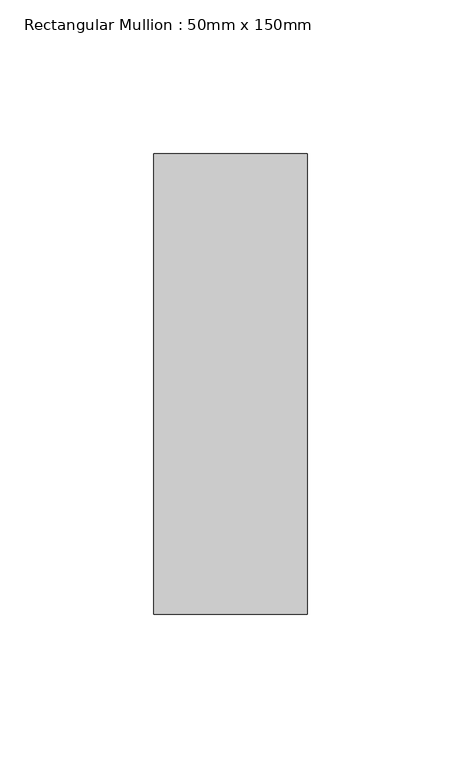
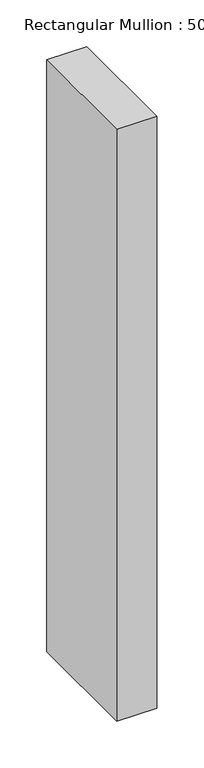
"""IFC4 building model written with IfcOpenShell, lengths in millimetres: member geometry, Rectangular Mullion : 50mm x 150mm."""

from ifc_helpers import new_model, si_unit, frame, origin, place, context, project, spatial, polyline, outline, extrude, source, transform, mapped, element, save


def rectangular_mullion_50mm_x_150mm_6270d9f9(model_context):
    return source(origin(), model_context, "Body", "SweptSolid", [
        extrude(outline(polyline([(25.0, 75.0), (25.0, -75.0), (-25.0, -75.0), (-25.0, 75.0), (25.0, 75.0)])), frame((0.0, 0.0, -775.0), z_axis=(0.0, 0.0, 1.0), x_axis=(1.0, 0.0, 0.0)), (0.0, 0.0, 1.0), 775.0),
    ])


if __name__ == "__main__":
    model = new_model("IFC4")
    model_context = context("Model", 3, world=origin())
    ifc_project = project(units=[si_unit("LENGTHUNIT", "METRE", prefix="MILLI")], contexts=[model_context])
    site = spatial("IfcSite", under=ifc_project)
    building = spatial("IfcBuilding", under=site)
    placement = place(None, origin())
    rectangular_mullion_50mm_x_150mm_shape = rectangular_mullion_50mm_x_150mm_6270d9f9(model_context)
    element("IfcMember", 1, ObjectType="Rectangular Mullion : 50mm x 150mm", at=placement, inside=building, context=model_context, shape_type="MappedRepresentation", body=[
        mapped(rectangular_mullion_50mm_x_150mm_shape, transform((0.0, 0.0, 0.0), x_axis=(1.0, 0.0, 0.0), y_axis=(0.0, 1.0, 0.0), z_axis=(0.0, 0.0, 1.0))),
    ])
    save(model, "model.ifc")
